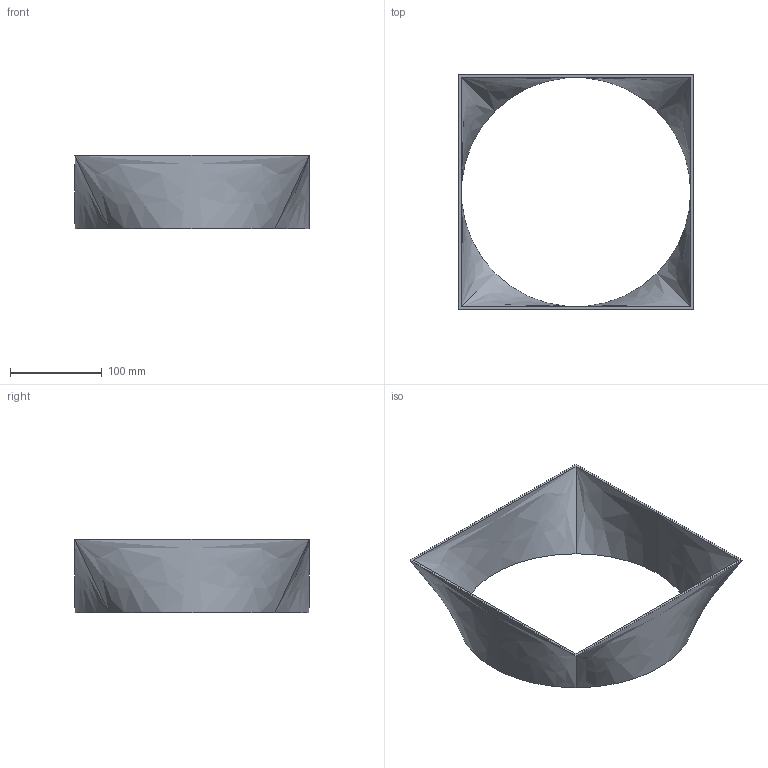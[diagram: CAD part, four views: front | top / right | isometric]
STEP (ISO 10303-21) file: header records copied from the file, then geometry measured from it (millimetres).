
FILE_DESCRIPTION(('Open CASCADE Model'),'2;1');
FILE_NAME('Open CASCADE Shape Model','2026-10-15T15:10:05',('Author'),( 'Open CASCADE'),'Open CASCADE STEP processor 8.0','Open CASCADE 8.0' ,'Unknown');
FILE_SCHEMA(('AUTOMOTIVE_DESIGN { 1 0 10303 214 1 1 1 1 }'));
Length unit declared in the file: millimetre
Products named in the file (1): MS01_TRANSICION_CUADRADO_REDONDO_3_P05 115
Bounding box: 256 x 256 x 80 mm (x, y, z)
Volume: 217435.4 mm3; surface area: 152162.2 mm2
Topology: 1 solids, 1 shells, 12 faces, 30 edges, 20 vertices
Faces by surface type: bspline 10, plane 2
Entity records: 892 total; most frequent: CARTESIAN_POINT 317, DIRECTION 86, ORIENTED_EDGE 60, PCURVE 60, DEFINITIONAL_REPRESENTATION 60, LINE 50, VECTOR 50, EDGE_CURVE 30
